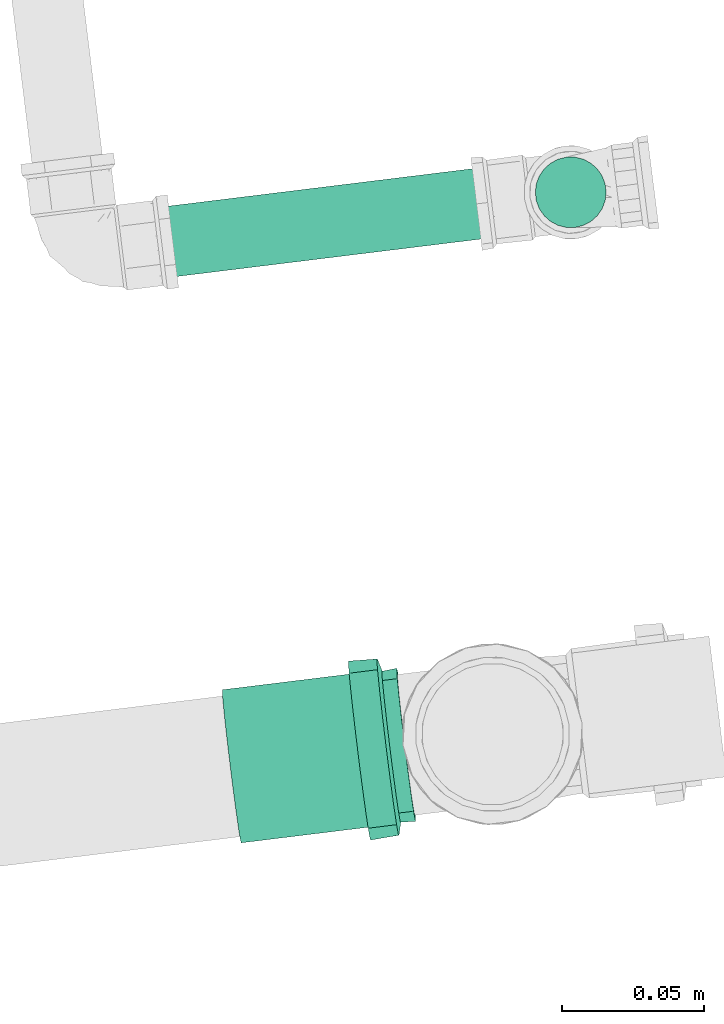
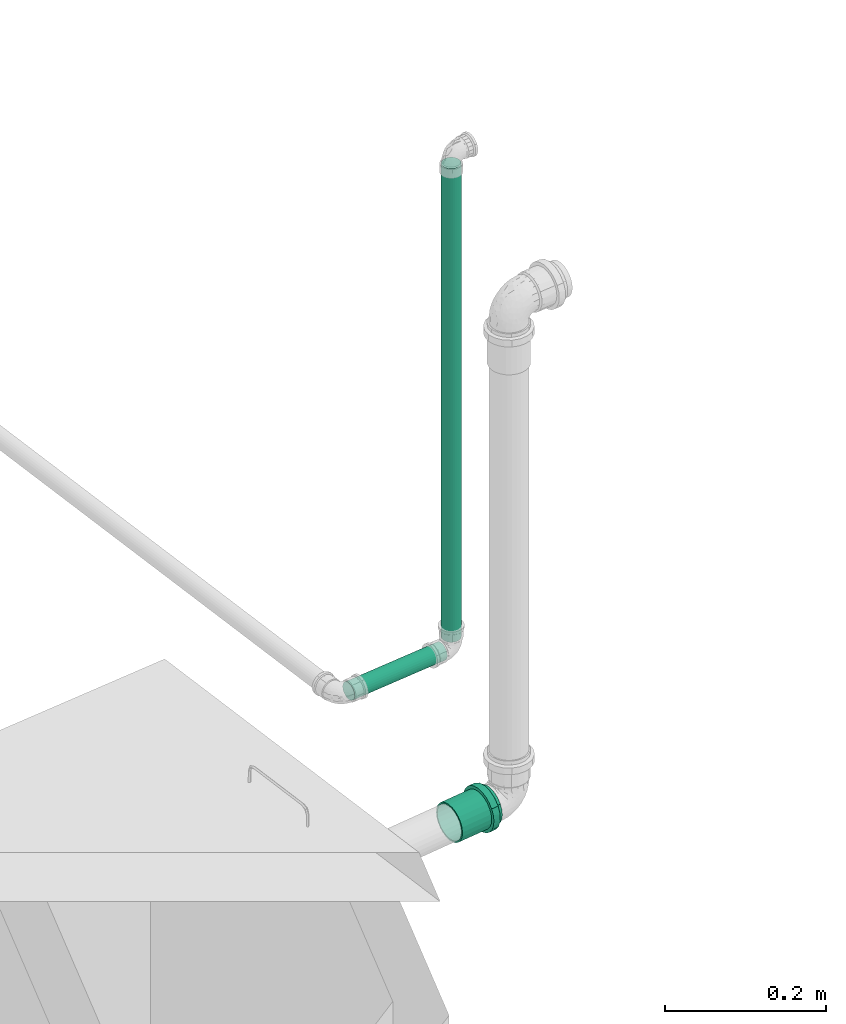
# One storey, part 58 of 97: 2 flow segments, 1 flow fitting.
"""IFC2X3 building model written with IfcOpenShell, lengths in centimetres."""

from ifc_helpers import new_model, entity, si_unit, converted_unit, derived_unit, direction, frame, origin, origin_2d_with_axis, place, context, subcontext, project, spatial, circle, extrude, faceted_brep, source, transform, mapped, material, type_object, type_shapes, element, save


model = new_model("IFC2X3")

# Units and contexts
model_context = context("Model", 3, precision=0.001, world=origin(), true_north=direction((6.12303176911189e-17, 1.0)))
body_context = subcontext(model_context, "Body", "Model", "MODEL_VIEW")
ifc_project = project(units=[si_unit("LENGTHUNIT", "METRE", prefix="CENTI"), si_unit("AREAUNIT", "SQUARE_METRE"), si_unit("VOLUMEUNIT", "CUBIC_METRE"), converted_unit("PLANEANGLEUNIT", "DEGREE", entity("IfcRatioMeasure", 0.0174532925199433), si_unit("PLANEANGLEUNIT", "RADIAN"), dimensions=[0, 0, 0, 0, 0, 0, 0]), si_unit("MASSUNIT", "GRAM", prefix="KILO"), derived_unit("MASSDENSITYUNIT", [(si_unit("MASSUNIT", "GRAM", prefix="KILO"), 1), (si_unit("LENGTHUNIT", "METRE"), -3)]), derived_unit("MOMENTOFINERTIAUNIT", [(si_unit("LENGTHUNIT", "METRE"), 4)]), si_unit("TIMEUNIT", "SECOND"), si_unit("FREQUENCYUNIT", "HERTZ"), si_unit("THERMODYNAMICTEMPERATUREUNIT", "DEGREE_CELSIUS"), derived_unit("THERMALTRANSMITTANCEUNIT", [(si_unit("MASSUNIT", "GRAM", prefix="KILO"), 1), (si_unit("THERMODYNAMICTEMPERATUREUNIT", "KELVIN"), -1), (si_unit("TIMEUNIT", "SECOND"), -3)]), derived_unit("VOLUMETRICFLOWRATEUNIT", [(si_unit("LENGTHUNIT", "METRE"), 3), (si_unit("TIMEUNIT", "SECOND"), -1)]), si_unit("ELECTRICCURRENTUNIT", "AMPERE"), si_unit("ELECTRICVOLTAGEUNIT", "VOLT"), si_unit("POWERUNIT", "WATT"), si_unit("FORCEUNIT", "NEWTON", prefix="KILO"), si_unit("ILLUMINANCEUNIT", "LUX"), si_unit("LUMINOUSFLUXUNIT", "LUMEN"), si_unit("LUMINOUSINTENSITYUNIT", "CANDELA"), derived_unit("USERDEFINED", [(si_unit("MASSUNIT", "GRAM", prefix="KILO"), -1), (si_unit("LENGTHUNIT", "METRE"), -2), (si_unit("TIMEUNIT", "SECOND"), 3), (si_unit("LUMINOUSFLUXUNIT", "LUMEN"), 1)]), derived_unit("LINEARVELOCITYUNIT", [(si_unit("LENGTHUNIT", "METRE"), 1), (si_unit("TIMEUNIT", "SECOND"), -1)]), si_unit("PRESSUREUNIT", "PASCAL"), derived_unit("USERDEFINED", [(si_unit("LENGTHUNIT", "METRE"), -2), (si_unit("MASSUNIT", "GRAM", prefix="KILO"), 1), (si_unit("TIMEUNIT", "SECOND"), -2)]), derived_unit("LINEARFORCEUNIT", [(si_unit("MASSUNIT", "GRAM", prefix="KILO"), 1), (si_unit("LENGTHUNIT", "METRE"), 1), (si_unit("TIMEUNIT", "SECOND"), -2), (si_unit("LENGTHUNIT", "METRE"), -1)]), derived_unit("PLANARFORCEUNIT", [(si_unit("MASSUNIT", "GRAM", prefix="KILO"), 1), (si_unit("LENGTHUNIT", "METRE"), 1), (si_unit("TIMEUNIT", "SECOND"), -2), (si_unit("LENGTHUNIT", "METRE"), -2)])], contexts=[model_context])

# Site, building, storey
site_placement = place(None, origin())
site = spatial("IfcSite", under=ifc_project, at=site_placement, Name="Default", CompositionType="ELEMENT")
building_placement = place(site_placement, origin())
building = spatial("IfcBuilding", under=site, at=building_placement, Name="HIDROSSANITÁRIO", CompositionType="ELEMENT")
storey_placement = place(building_placement, frame((0.0, 0.0, -260.0)))
storey = spatial("IfcBuildingStorey", under=building, at=storey_placement, Name="TÉRREO-HID", CompositionType="ELEMENT", Elevation=-260.0)

# Flow segments
pipe_segment_type = type_object("IfcPipeSegmentType", Name="Tipos de tubos:Tubo Marrom - Água Fria - Soldável", PredefinedType="NOTDEFINED")
flow_segment_1_placement = place(storey_placement, origin())
element("IfcFlowSegment", 1, at=flow_segment_1_placement, inside=storey, type_object=pipe_segment_type, Name="Tipos de tubos:Tubo Marrom - Água Fria - Soldável", ObjectType="Tipos de tubos:Tubo Marrom - Água Fria - Soldável", context=body_context, shape_type="SweptSolid", body=[
    extrude(circle(Radius=1.25, at=origin_2d_with_axis()), frame((815.644297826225, 3213.11539770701, -13.46), z_axis=(0.0, 0.0, 1.0), x_axis=(-1.0, 0.0, 0.0)), (0.0, 0.0, 1.0), 71.83),
])
flow_segment_2_placement = place(storey_placement, origin())
element("IfcFlowSegment", 2, at=flow_segment_2_placement, inside=storey, type_object=pipe_segment_type, Name="Tipos de tubos:Tubo Marrom - Água Fria - Soldável", ObjectType="Tipos de tubos:Tubo Marrom - Água Fria - Soldável", context=body_context, shape_type="SweptSolid", body=[
    extrude(circle(Radius=1.25, at=origin_2d_with_axis()), frame((799.819491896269, 3211.16777420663, -15.0), z_axis=(0.992511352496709, 0.122152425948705, 0.0), x_axis=(-0.122152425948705, 0.992511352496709, 0.0)), (0.0, 0.0, 1.0), 14.4042064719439),
])

# Flow fitting
ifc_material = material(Name="PVC Branco")
pipe_fitting_type = type_object("IfcPipeFittingType", Name="Luva Simples para Conexão - Serie Normal - Esgoto - MEP - Tigre:Standard", PredefinedType="NOTDEFINED", material=ifc_material)
shared_shape = source(origin(), body_context, "Body", "Brep", [
    faceted_brep([(1.65999999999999, 1.59, -2.75396078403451), (1.65999999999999, 2.24859956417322, -2.24859956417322), (1.65999999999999, 1.35999999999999, -2.35558909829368), (1.65999999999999, 0.703987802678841, -2.62731824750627), (1.65999999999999, 0.82304456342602, -3.07164412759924), (1.65999999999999, 1.9233304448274, -1.92333044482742), (1.65999999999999, 2.75396078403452, -1.59), (1.65999999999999, 2.35558909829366, -1.36000000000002), (1.65999999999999, 2.62731824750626, -0.703987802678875), (1.65999999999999, 3.07164412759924, -0.823044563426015), (1.65999999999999, 2.72, 0.0), (1.65999999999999, 3.18, 0.0), (1.65999999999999, 2.62731824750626, 0.703987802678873), (1.65999999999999, 3.07164412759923, 0.823044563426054), (1.65999999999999, 2.35558909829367, 1.36000000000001), (1.65999999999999, 2.7539607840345, 1.59000000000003), (1.65999999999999, 1.9233304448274, 1.92333044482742), (1.65999999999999, 2.24859956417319, 2.24859956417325), (1.65999999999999, 1.35999999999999, 2.35558909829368), (1.65999999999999, 1.58999999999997, 2.75396078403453), (1.65999999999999, 0.703987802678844, 2.62731824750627), (1.65999999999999, 0.823044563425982, 3.07164412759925), (1.65999999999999, 0.0, 2.72), (1.65999999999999, 0.0, 3.18), (1.65999999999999, -0.703987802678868, 2.62731824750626), (1.65999999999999, -0.823044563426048, 3.07164412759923), (1.65999999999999, -1.36000000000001, 2.35558909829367), (1.65999999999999, -1.59000000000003, 2.7539607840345), (1.65999999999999, -1.92333044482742, 1.9233304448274), (1.65999999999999, -2.24859956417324, 2.2485995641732), (1.65999999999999, -2.35558909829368, 1.35999999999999), (1.65999999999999, -2.75396078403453, 1.58999999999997), (1.65999999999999, -3.07164412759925, 0.823044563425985), (1.65999999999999, -2.62731824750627, 0.703987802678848), (1.65999999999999, -3.18, 0.0), (1.65999999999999, -2.72, 0.0), (1.65999999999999, -3.07164412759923, -0.823044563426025), (1.65999999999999, -2.62731824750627, -0.703987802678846), (1.65999999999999, -2.75396078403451, -1.59000000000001), (1.65999999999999, -2.35558909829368, -1.35999999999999), (1.65999999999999, -2.24859956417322, -2.24859956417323), (1.65999999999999, -1.92333044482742, -1.9233304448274), (1.65999999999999, -1.58999999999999, -2.75396078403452), (1.65999999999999, -1.36000000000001, -2.35558909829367), (1.65999999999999, -0.823044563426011, -3.07164412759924), (1.65999999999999, -0.70398780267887, -2.62731824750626), (1.65999999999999, 0.0, -3.18), (1.65999999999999, 0.0, -2.72), (0.650000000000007, -1.07081089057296, 2.94292196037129), (0.650000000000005, -2.43590738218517, 2.04420038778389), (0.650000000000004, -2.7120498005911, 1.56595386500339), (0.650000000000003, -2.98819221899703, 1.08770734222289), (0.650000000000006, -1.58976972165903, 2.75409372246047), (0.650000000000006, -2.0128385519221, 2.39914705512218), (0.650000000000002, -3.08409610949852, 0.54385367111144), (0.650000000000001, -3.18, 0.0), (0.650000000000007, -0.551852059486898, 3.13175019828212), (0.650000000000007, 0.552637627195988, 3.13161167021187), (0.650000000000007, 0.000392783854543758, 3.13168093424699), (0.650000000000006, 2.01344030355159, 2.39864206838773), (0.650000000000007, 1.07154907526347, 2.94265325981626), (0.650000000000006, 1.59046052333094, 2.75369484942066), (0.650000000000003, 2.98846497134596, 1.08695773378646), (0.650000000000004, 2.7124425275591, 1.56527351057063), (0.650000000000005, 2.43642008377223, 2.0435892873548), (0.650000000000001, 3.18, 0.0), (0.649999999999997, 2.43642008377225, -2.04358928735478), (0.649999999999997, 2.71244252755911, -1.5652735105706), (0.649999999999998, 2.98846497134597, -1.08695773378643), (0.649999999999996, 1.59046052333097, -2.75369484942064), (0.649999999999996, 2.01344030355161, -2.39864206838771), (0.649999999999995, 1.07154907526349, -2.94265325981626), (0.649999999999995, 0.552637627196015, -3.13161167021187), (0.649999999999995, -0.551852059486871, -3.13175019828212), (0.649999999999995, 0.000392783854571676, -3.13168093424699), (0.649999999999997, -2.01283855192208, -2.3991470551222), (0.649999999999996, -1.58976972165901, -2.75409372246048), (0.649999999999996, -1.07081089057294, -2.9429219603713), (0.649999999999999, -2.98819221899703, -1.08770734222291), (0.649999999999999, -2.71204980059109, -1.56595386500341), (0.649999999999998, -2.43590738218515, -2.04420038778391), (0.65, -3.08409610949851, -0.543853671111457), (0.64999999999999, -3.06961738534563, -0.625959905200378), (6.20000000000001, 1.36, -2.35558909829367), (6.20000000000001, 1.92333044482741, -1.92333044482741), (6.20000000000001, 1.24999999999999, -2.1650635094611), (6.20000000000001, 0.647047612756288, -2.41481456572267), (6.20000000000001, 0.70398780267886, -2.62731824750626), (6.20000000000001, 1.76776695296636, -1.76776695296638), (6.20000000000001, 2.35558909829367, -1.36), (6.20000000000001, 2.16506350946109, -1.25000000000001), (6.20000000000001, 2.41481456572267, -0.647047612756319), (6.20000000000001, 2.62731824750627, -0.703987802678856), (6.20000000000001, 2.5, 0.0), (6.20000000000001, 2.72, 0.0), (6.20000000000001, 2.41481456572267, 0.647047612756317), (6.20000000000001, 2.62731824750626, 0.703987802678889), (6.20000000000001, 2.16506350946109, 1.25000000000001), (6.20000000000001, 2.35558909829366, 1.36000000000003), (6.20000000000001, 1.76776695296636, 1.76776695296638), (6.20000000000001, 1.92333044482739, 1.92333044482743), (6.20000000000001, 1.24999999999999, 2.1650635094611), (6.20000000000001, 1.35999999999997, 2.35558909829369), (6.20000000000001, 0.64704761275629, 2.41481456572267), (6.20000000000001, 0.703987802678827, 2.62731824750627), (6.20000000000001, 0.0, 2.5), (6.20000000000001, 0.0, 2.72), (6.20000000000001, -0.647047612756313, 2.41481456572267), (6.20000000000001, -0.703987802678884, 2.62731824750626), (6.20000000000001, -1.25000000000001, 2.16506350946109), (6.20000000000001, -1.36000000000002, 2.35558909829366), (6.20000000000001, -1.76776695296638, 1.76776695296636), (6.20000000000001, -1.92333044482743, 1.92333044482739), (6.20000000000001, -2.1650635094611, 1.24999999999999), (6.20000000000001, -2.35558909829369, 1.35999999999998), (6.20000000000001, -2.62731824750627, 0.703987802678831), (6.20000000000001, -2.41481456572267, 0.647047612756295), (6.20000000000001, -2.72, 0.0), (6.20000000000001, -2.5, 0.0), (6.20000000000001, -2.62731824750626, -0.703987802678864), (6.20000000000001, -2.41481456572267, -0.647047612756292), (6.20000000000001, -2.35558909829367, -1.36000000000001), (6.20000000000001, -2.1650635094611, -1.24999999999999), (6.20000000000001, -1.9233304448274, -1.92333044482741), (6.20000000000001, -1.76776695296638, -1.76776695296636), (6.20000000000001, -1.36, -2.35558909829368), (6.20000000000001, -1.25000000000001, -2.16506350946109), (6.20000000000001, -0.703987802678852, -2.62731824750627), (6.20000000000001, -0.647047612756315, -2.41481456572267), (6.20000000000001, 0.0, -2.72), (6.20000000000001, 0.0, -2.5), (0.0, 1.24999999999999, -2.1650635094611), (0.0, 1.92333044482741, -1.92333044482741), (0.0, 1.36, -2.35558909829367), (0.0, 0.647047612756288, -2.41481456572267), (0.0, 1.76776695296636, -1.76776695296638), (0.0, 2.35558909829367, -1.36), (0.0, 2.16506350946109, -1.25000000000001), (0.0, 2.41481456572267, -0.647047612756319), (0.0, 2.62731824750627, -0.703987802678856), (0.0, 2.5, 0.0), (0.0, 2.72, 0.0), (0.0, 2.41481456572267, 0.647047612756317), (0.0, 2.62731824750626, 0.703987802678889), (0.0, 2.16506350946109, 1.25000000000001), (0.0, 2.35558909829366, 1.36000000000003), (0.0, 1.76776695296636, 1.76776695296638), (0.0, 1.92333044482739, 1.92333044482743), (0.0, 1.24999999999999, 2.1650635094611), (0.0, 1.35999999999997, 2.35558909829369), (0.0, 0.64704761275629, 2.41481456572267), (0.0, 0.703987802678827, 2.62731824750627), (0.0, 0.0, 2.5), (0.0, 0.0, 2.72), (0.0, -0.647047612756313, 2.41481456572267), (0.0, -0.703987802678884, 2.62731824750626), (0.0, -1.25000000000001, 2.16506350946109), (0.0, -1.36000000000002, 2.35558909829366), (0.0, -1.76776695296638, 1.76776695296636), (0.0, -1.92333044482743, 1.92333044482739), (0.0, -2.1650635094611, 1.24999999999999), (0.0, -2.35558909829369, 1.35999999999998), (0.0, -2.62731824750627, 0.703987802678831), (0.0, -2.41481456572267, 0.647047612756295), (0.0, -2.72, 0.0), (0.0, -2.5, 0.0), (0.0, -2.62731824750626, -0.703987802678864), (0.0, -2.41481456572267, -0.647047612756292), (0.0, -2.35558909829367, -1.36000000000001), (0.0, -2.1650635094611, -1.24999999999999), (0.0, -1.9233304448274, -1.92333044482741), (0.0, -1.76776695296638, -1.76776695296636), (0.0, -1.36, -2.35558909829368), (0.0, -1.25000000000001, -2.16506350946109), (0.0, -0.703987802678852, -2.62731824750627), (0.0, -0.647047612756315, -2.41481456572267), (0.0, 0.0, -2.72), (0.0, 0.0, -2.5), (0.0, 0.70398780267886, -2.62731824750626), (0.53, -2.63796899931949, 0.465183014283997), (0.529999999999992, -2.62558467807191, 0.535412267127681), (0.530000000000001, -2.55593799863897, 0.930366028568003), (0.530000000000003, -2.08354342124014, 1.74849844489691), (0.530000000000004, -1.72167322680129, 2.05210062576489), (0.530000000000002, -2.31974070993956, 1.33943223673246), (0.530000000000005, -0.472024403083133, 2.67872972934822), (0.530000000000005, -0.915913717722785, 2.51721626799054), (0.53, -2.72, 0.0), (0.530000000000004, -1.35980303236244, 2.35570280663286), (0.530000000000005, 0.916545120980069, 2.51698643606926), (0.530000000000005, 1.36039390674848, 2.35536163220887), (0.530000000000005, 0.47269633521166, 2.67861123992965), (0.530000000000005, 1.72218793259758, 2.05166868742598), (0.530000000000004, 2.08398195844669, 1.7479757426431), (0.530000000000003, 2.5561712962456, 0.929724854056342), (0.53, 2.72, 0.0), (0.530000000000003, 2.32007662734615, 1.33885029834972), (0.530000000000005, 0.000335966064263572, 2.67867048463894), (0.529999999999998, 2.55617129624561, -0.929724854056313), (0.529999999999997, 2.08398195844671, -1.74797574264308), (0.529999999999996, 1.7221879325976, -2.05166868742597), (0.529999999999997, 2.32007662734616, -1.3388502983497), (0.529999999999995, 0.472696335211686, -2.67861123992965), (0.529999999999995, 0.916545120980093, -2.51698643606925), (0.529999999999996, 1.3603939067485, -2.35536163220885), (0.529999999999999, -2.63796899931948, -0.465183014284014), (0.529999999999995, -0.915913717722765, -2.51721626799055), (0.529999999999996, -1.35980303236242, -2.35570280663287), (0.529999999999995, -0.47202440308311, -2.67872972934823), (0.529999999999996, -1.72167322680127, -2.0521006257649), (0.529999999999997, -2.08354342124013, -1.74849844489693), (0.529999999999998, -2.55593799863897, -0.930366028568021), (0.529999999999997, -2.31974070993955, -1.33943223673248), (0.529999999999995, 0.000335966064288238, -2.67867048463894), (3.9, -2.5, 0.0), (3.9, 2.5, 0.0)], [[[0, 1, 2]], [[0, 2, 3]], [[3, 4, 0]], [[2, 1, 5]], [[6, 5, 1]], [[7, 5, 6]], [[8, 7, 6]], [[8, 6, 9]], [[8, 9, 10]], [[10, 9, 11]], [[12, 10, 11]], [[12, 11, 13]], [[14, 12, 13]], [[14, 13, 15]], [[16, 14, 15]], [[15, 17, 16]], [[17, 18, 16]], [[17, 19, 18]], [[18, 19, 20]], [[21, 20, 19]], [[20, 21, 22]], [[22, 21, 23]], [[22, 23, 24]], [[24, 23, 25]], [[24, 25, 26]], [[27, 26, 25]], [[27, 28, 26]], [[28, 27, 29]], [[30, 28, 29]], [[31, 30, 29]], [[32, 30, 31]], [[33, 30, 32]], [[33, 32, 34]], [[35, 33, 34]], [[36, 35, 34]], [[36, 37, 35]], [[37, 36, 38]], [[39, 37, 38]], [[39, 38, 40]], [[39, 40, 41]], [[40, 42, 41]], [[41, 42, 43]], [[43, 42, 44]], [[44, 45, 43]], [[46, 45, 44]], [[4, 47, 46]], [[46, 47, 45]], [[4, 3, 47]], [[48, 27, 25]], [[31, 29, 49]], [[31, 49, 50, 51]], [[52, 53, 27]], [[32, 51, 54]], [[54, 55, 34]], [[54, 34, 32]], [[25, 56, 48]], [[49, 29, 53]], [[23, 57, 58, 56]], [[59, 19, 17]], [[27, 53, 29]], [[48, 52, 27]], [[31, 51, 32]], [[57, 23, 21]], [[60, 19, 61]], [[15, 62, 63, 64]], [[19, 60, 21]], [[15, 13, 62]], [[17, 64, 59]], [[57, 21, 60]], [[23, 56, 25]], [[15, 64, 17]], [[13, 65, 62]], [[13, 11, 65]], [[59, 61, 19]], [[65, 11, 9]], [[6, 1, 66]], [[6, 66, 67, 68]], [[69, 70, 0]], [[68, 65, 9]], [[71, 69, 0]], [[71, 0, 4]], [[4, 72, 71]], [[66, 1, 70]], [[46, 73, 74, 72]], [[75, 76, 42]], [[0, 70, 1]], [[75, 42, 40]], [[6, 68, 9]], [[73, 46, 44]], [[77, 42, 76]], [[38, 78, 79, 80]], [[42, 77, 44]], [[38, 36, 78]], [[40, 80, 75]], [[73, 44, 77]], [[46, 72, 4]], [[38, 80, 40]], [[36, 81, 82, 78]], [[55, 81, 34]], [[34, 81, 36]], [[83, 84, 85]], [[83, 85, 86]], [[86, 87, 83]], [[85, 84, 88]], [[89, 88, 84]], [[88, 89, 90]], [[90, 89, 91]], [[92, 91, 89]], [[92, 93, 91]], [[93, 92, 94]], [[95, 93, 94]], [[94, 96, 95]], [[95, 96, 97]], [[98, 97, 96]], [[97, 98, 99]], [[99, 98, 100]], [[101, 99, 100]], [[100, 102, 101]], [[101, 102, 103]], [[104, 103, 102]], [[103, 104, 105]], [[105, 104, 106]], [[105, 106, 107]], [[107, 106, 108]], [[107, 108, 109]], [[110, 109, 108]], [[110, 111, 109]], [[111, 110, 112]], [[112, 113, 111]], [[114, 113, 112]], [[113, 114, 115]], [[115, 116, 113]], [[117, 116, 115]], [[117, 118, 116]], [[119, 118, 117]], [[119, 120, 118]], [[120, 119, 121]], [[121, 122, 120]], [[122, 121, 123]], [[122, 123, 124]], [[123, 125, 124]], [[124, 125, 126]], [[126, 125, 127]], [[127, 128, 126]], [[129, 128, 127]], [[87, 130, 129]], [[129, 130, 128]], [[87, 86, 130]], [[131, 132, 133]], [[134, 131, 133]], [[135, 132, 131]], [[132, 135, 136]], [[137, 136, 135]], [[138, 136, 137]], [[136, 138, 139]], [[138, 140, 139]], [[141, 139, 140]], [[141, 140, 142]], [[142, 143, 141]], [[144, 143, 142]], [[143, 144, 145]], [[146, 145, 144]], [[147, 145, 146]], [[147, 146, 148]], [[148, 149, 147]], [[150, 149, 148]], [[149, 150, 151]], [[152, 151, 150]], [[153, 151, 152]], [[154, 153, 152]], [[155, 153, 154]], [[156, 155, 154]], [[155, 156, 157]], [[156, 158, 157]], [[159, 157, 158]], [[158, 160, 159]], [[159, 160, 161]], [[162, 161, 160]], [[160, 163, 162]], [[162, 163, 164]], [[163, 165, 164]], [[164, 165, 166]], [[165, 167, 166]], [[168, 166, 167]], [[167, 169, 168]], [[170, 168, 169]], [[171, 170, 169]], [[171, 172, 170]], [[173, 172, 171]], [[174, 172, 173]], [[173, 175, 174]], [[174, 175, 176]], [[175, 177, 176]], [[177, 134, 178]], [[176, 177, 178]], [[133, 178, 134]], [[162, 179, 180, 181]], [[159, 182, 183]], [[182, 161, 181, 184]], [[185, 155, 186]], [[161, 162, 181]], [[187, 179, 164]], [[183, 188, 157]], [[183, 157, 159]], [[161, 182, 159]], [[189, 190, 149]], [[189, 149, 151]], [[157, 188, 186]], [[157, 186, 155]], [[153, 155, 185]], [[164, 179, 162]], [[151, 191, 189]], [[147, 192, 193]], [[143, 194, 195]], [[194, 145, 193, 196]], [[143, 195, 141]], [[10, 12, 96, 94]], [[149, 192, 147]], [[153, 185, 197, 191]], [[153, 191, 151]], [[145, 147, 193]], [[190, 192, 149]], [[145, 194, 143]], [[139, 195, 198]], [[132, 199, 200]], [[199, 136, 198, 201]], [[202, 178, 203]], [[136, 139, 198]], [[139, 141, 195]], [[92, 8, 10, 94]], [[133, 203, 178]], [[200, 204, 133]], [[136, 199, 132]], [[205, 164, 166]], [[206, 207, 172]], [[133, 204, 203]], [[206, 172, 174]], [[176, 178, 202]], [[200, 133, 132]], [[174, 208, 206]], [[170, 209, 210]], [[166, 211, 205]], [[211, 168, 210, 212]], [[168, 211, 166]], [[172, 209, 170]], [[176, 202, 213, 208]], [[176, 208, 174]], [[168, 170, 210]], [[207, 209, 172]], [[205, 187, 164]], [[116, 118, 214, 165, 163]], [[156, 109, 111, 158]], [[111, 113, 160, 158]], [[113, 116, 163, 160]], [[107, 109, 156, 154]], [[154, 152, 105, 107]], [[103, 105, 152, 150]], [[103, 150, 148, 101]], [[142, 95, 97, 144]], [[97, 99, 146, 144]], [[99, 101, 148, 146]], [[93, 95, 142, 140, 215]], [[215, 140, 138, 91, 93]], [[135, 131, 85, 88]], [[90, 91, 138, 137]], [[90, 137, 135, 88]], [[86, 85, 131, 134]], [[134, 177, 130, 86]], [[128, 130, 177, 175]], [[128, 175, 173, 126]], [[167, 120, 122, 169]], [[122, 124, 171, 169]], [[124, 126, 173, 171]], [[118, 120, 167, 165, 214]], [[211, 78, 82, 81, 55, 187, 205]], [[79, 78, 211, 212, 210, 80]], [[75, 80, 210, 209, 207, 76]], [[207, 206, 208, 73, 77, 76]], [[213, 202, 72, 74, 73, 208]], [[203, 204, 69, 71, 72, 202]], [[198, 195, 65, 68]], [[199, 201, 198, 68, 67, 66]], [[204, 200, 199, 66, 70, 69]], [[195, 194, 62, 65]], [[197, 185, 56, 58, 57, 191]], [[63, 62, 194, 196, 193, 64]], [[57, 60, 61, 190, 189, 191]], [[193, 192, 190, 61, 59, 64]], [[48, 56, 185, 186, 188, 52]], [[187, 55, 54, 51, 181, 180, 179]], [[182, 184, 181, 51, 50, 49]], [[188, 183, 182, 49, 53, 52]], [[30, 33, 115, 114]], [[117, 115, 33, 35]], [[26, 28, 112, 110]], [[114, 112, 28, 30]], [[24, 26, 110, 108]], [[108, 106, 22, 24]], [[18, 20, 104, 102]], [[100, 16, 18, 102]], [[12, 14, 98, 96]], [[100, 98, 14, 16]], [[104, 20, 22, 106]], [[89, 7, 8, 92]], [[83, 87, 3, 2]], [[7, 89, 84, 5]], [[83, 2, 5, 84]], [[87, 129, 47, 3]], [[43, 45, 127, 125]], [[123, 41, 43, 125]], [[37, 39, 121, 119]], [[123, 121, 39, 41]], [[35, 37, 119, 117]], [[127, 45, 47, 129]]]),
])
type_shapes(pipe_fitting_type, [shared_shape])
flow_fitting_placement = place(storey_placement, frame((809.843247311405, 3193.62898709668, -25.0613581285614), z_axis=(-0.122152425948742, 0.992511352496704, 0.0), x_axis=(-0.992312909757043, -0.122128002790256, -0.0199960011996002)))
element("IfcFlowFitting", 3, at=flow_fitting_placement, inside=storey, type_object=pipe_fitting_type, material=ifc_material, Name="Luva Simples para Conexão - Serie Normal - Esgoto - MEP - Tigre:Standard", ObjectType="Luva Simples para Conexão - Serie Normal - Esgoto - MEP - Tigre:Standard", context=body_context, shape_type="MappedRepresentation", body=[
    mapped(shared_shape, transform((0.0, 0.0, 0.0), scale=1.0)),
])

save(model, "model.ifc")
